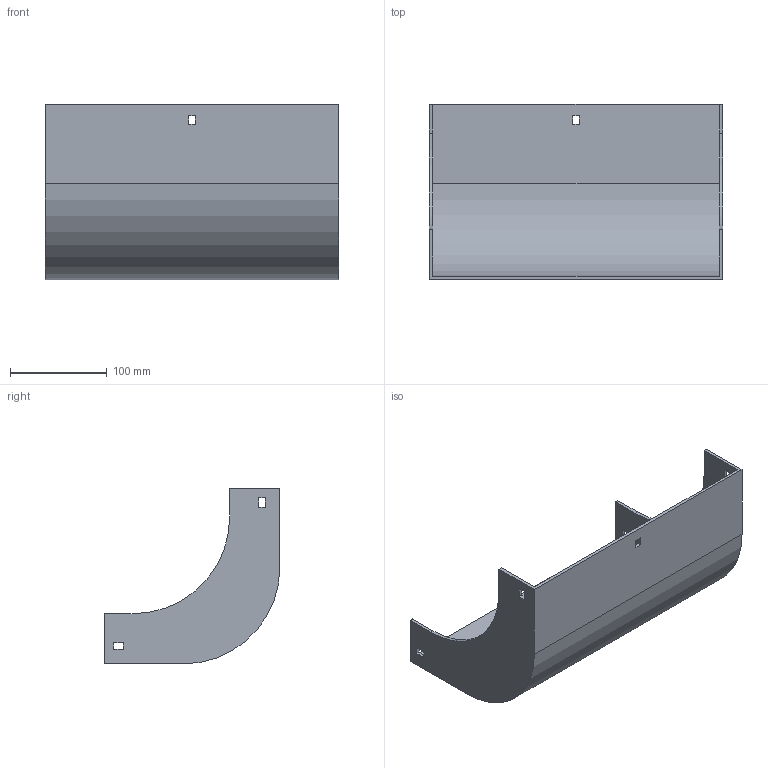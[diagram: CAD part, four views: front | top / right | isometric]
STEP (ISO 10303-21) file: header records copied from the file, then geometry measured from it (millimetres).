
FILE_DESCRIPTION (( 'STEP AP214' ), '1' );
FILE_NAME ('30F1B300.step', '2025-02-21T13:01:43', ( '' ), ( '' ), 'SwSTEP 2.0', 'SolidWorks 2023', '' );
FILE_SCHEMA (( 'AUTOMOTIVE_DESIGN' ));
Length unit declared in the file: millimetre
Products named in the file (1): 30F1B300
Bounding box: 304 x 182 x 182 mm (x, y, z)
Volume: 443083.3 mm3; surface area: 258229.3 mm2
Topology: 1 solids, 1 shells, 42 faces, 120 edges, 80 vertices
Faces by surface type: plane 38, cylinder 4
Entity records: 1399 total; most frequent: CARTESIAN_POINT 243, ORIENTED_EDGE 240, DIRECTION 214, EDGE_CURVE 120, LINE 112, VECTOR 112, VERTEX_POINT 80, EDGE_LOOP 54
